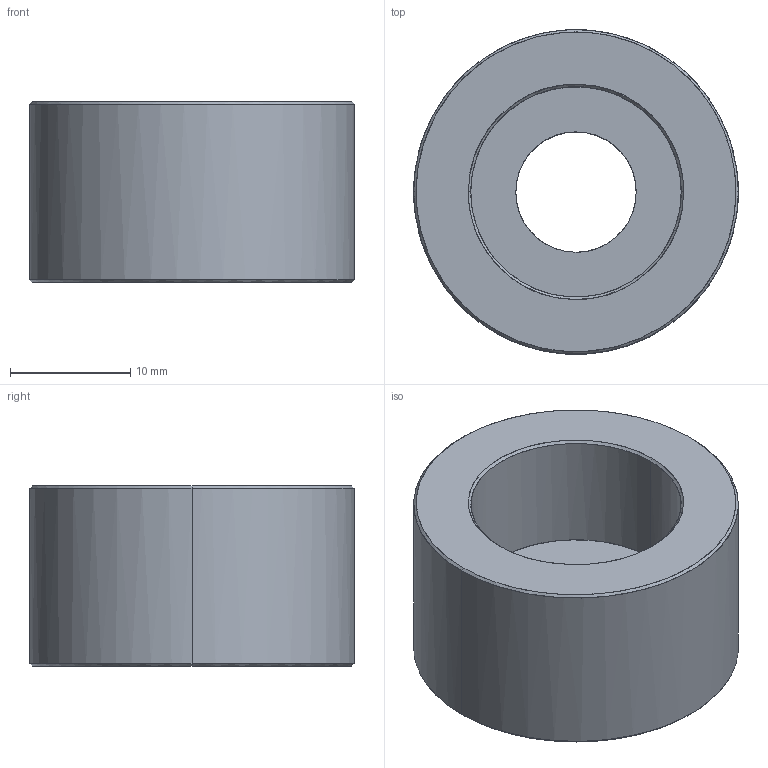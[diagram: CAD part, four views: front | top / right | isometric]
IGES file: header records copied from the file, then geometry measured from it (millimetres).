
Global section: file name: E:\UnigraphicsGraphicData\MISUMI_PRESS-PARTS\IGES\3d_j16_00100_r00.igs; native system: NX V5.0; preprocessor: UGS NX IGES V5.0; author: MISUMI; date: 20110105.161101; units: millimetre
Bounding box: 27 x 26.97 x 15 mm (x, y, z)
Surface area: 2936.9 mm2 (no closed solid volume)
Topology: 0 solids, 0 shells, 17 faces, 120 edges, 120 vertices
Faces by surface type: bspline 17
